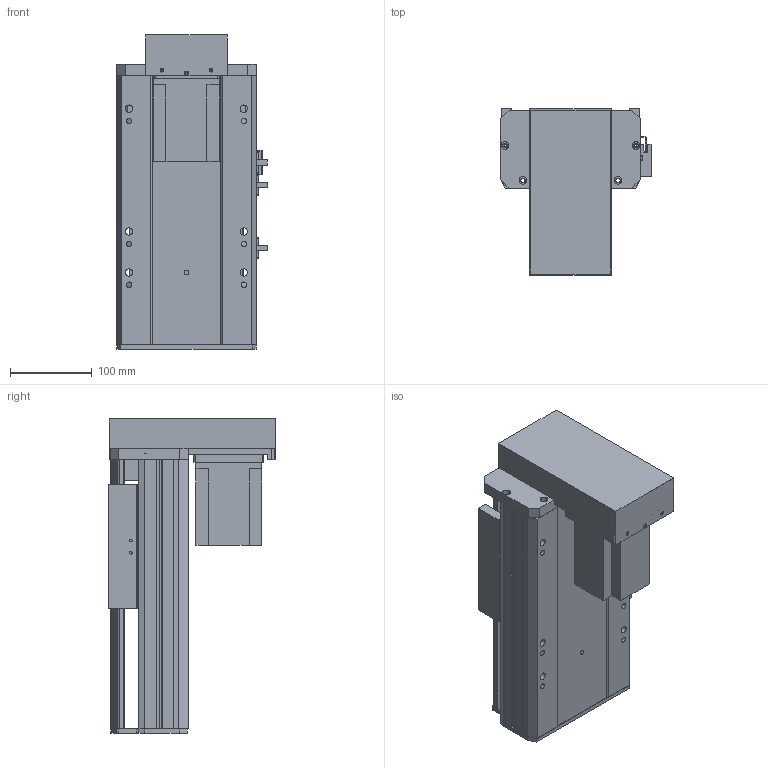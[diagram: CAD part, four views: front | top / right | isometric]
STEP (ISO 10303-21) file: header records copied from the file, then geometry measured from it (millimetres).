
FILE_DESCRIPTION (( 'STEP AP203' ), '1' );
FILE_NAME ('Y170-D10-S100-BM-P750W.STEP', '2020-01-22T02:45:20', ( '微软用户' ), ( '微软中国' ), 'SwSTEP 2.0', 'SolidWorks 2017', '' );
FILE_SCHEMA (( 'CONFIG_CONTROL_DESIGN' ));
Length unit declared in the file: millimetre
Products named in the file (13): Y100-135俋离換覜ん; EGH20賑輸_蕼偞; Y170-D10-S100-BM-P750W; Y雄赽釱-耜蚾; Y170-陔遴奻裔-BR; Y170-耜蚾嘐隅傷-25; 170-BM耜蚾蟀諉啣; Y170-BM--P750W楊擘啣; Y170耜裔--準---; -BM俋袗; 170--掛极-BR; YD-Y100-135-新外置传感挡片(通用）; 侂狟750W
Assembly tree (15 placements, depth 2):
  Y170-D10-S100-BM-P750W
    Y170耜裔--準---
    170--掛极-BR
    侂狟750W
    EGH20賑輸_蕼偞  x2
    Y雄赽釱-耜蚾
    Y170-陔遴奻裔-BR
    Y170-耜蚾嘐隅傷-25
    170-BM耜蚾蟀諉啣
    Y170-BM--P750W楊擘啣
    -BM俋袗
    YD-Y100-135-新外置传感挡片(通用）
    Y100-135俋离換覜ん  x3
Bounding box: 183.5 x 203.5 x 383.5 mm (x, y, z)
Volume: 2820009 mm3; surface area: 854515.9 mm2
Topology: 15 solids, 15 shells, 942 faces, 2592 edges, 1710 vertices
Faces by surface type: plane 478, cylinder 448, cone 16
Entity records: 29275 total; most frequent: CARTESIAN_POINT 4988, DIRECTION 4890, ORIENTED_EDGE 4680, EDGE_CURVE 2340, AXIS2_PLACEMENT_3D 1720, VERTEX_POINT 1554, VECTOR 1450, LINE 1450
